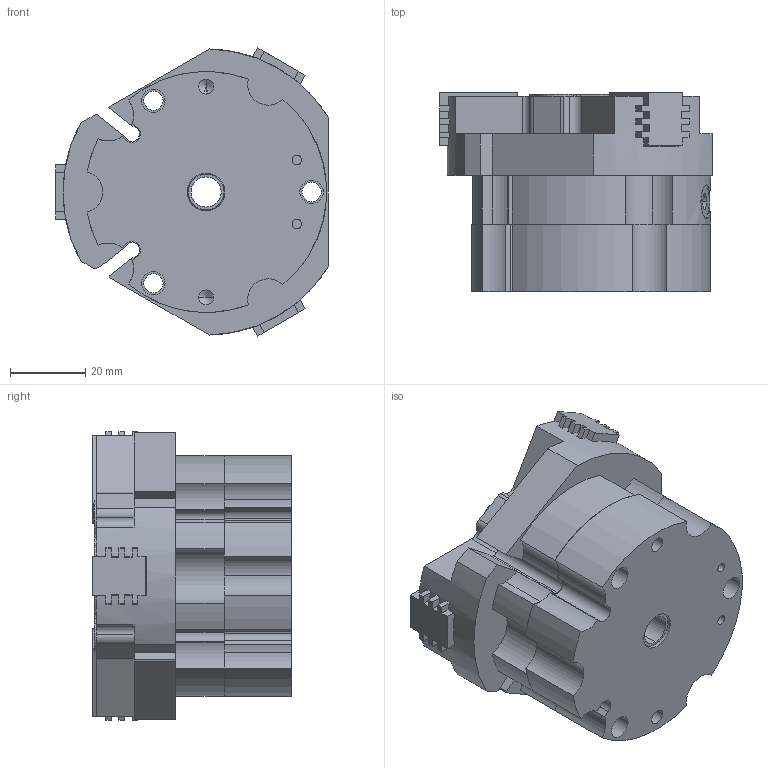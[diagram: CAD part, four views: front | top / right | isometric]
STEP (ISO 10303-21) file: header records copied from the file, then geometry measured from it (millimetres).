
FILE_DESCRIPTION (( 'STEP AP214' ), '1' );
FILE_NAME ('THB-64A-2-IS.STEP', '2021-01-18T03:09:57', ( '' ), ( '' ), 'SwSTEP 2.0', 'SolidWorks 2016', '' );
FILE_SCHEMA (( 'AUTOMOTIVE_DESIGN' ));
Length unit declared in the file: millimetre
Products named in the file (6): THB-64A-2-IS; THB-64A-2-IS-01; THB-64A-2-IS-02; THB-64A-2-IS-03; THB-64A-2-IS-05; THB-64A-2-IS-04
Assembly tree (7 placements, depth 2):
  THB-64A-2-IS
    THB-64A-2-IS-01
    THB-64A-2-IS-02  x3
    THB-64A-2-IS-03
    THB-64A-2-IS-04
    THB-64A-2-IS-05
Bounding box: 72.5 x 52.8 x 76.53 mm (x, y, z)
Volume: 151591.4 mm3; surface area: 49310.6 mm2
Topology: 7 solids, 7 shells, 543 faces, 1506 edges, 973 vertices
Faces by surface type: plane 274, cylinder 215, cone 54
Entity records: 14946 total; most frequent: CARTESIAN_POINT 2630, DIRECTION 2609, ORIENTED_EDGE 2428, EDGE_CURVE 1214, AXIS2_PLACEMENT_3D 958, VERTEX_POINT 801, VECTOR 693, LINE 693
